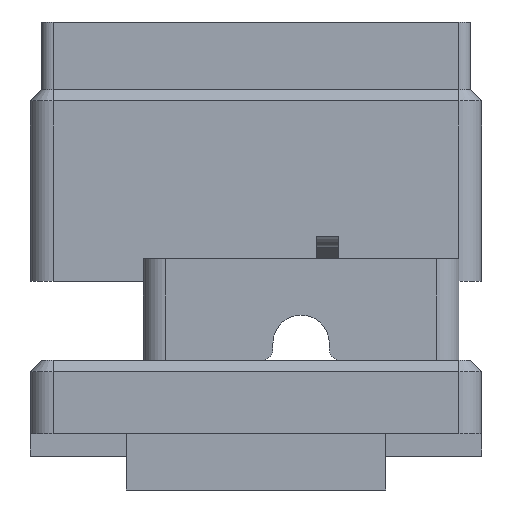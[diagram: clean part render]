
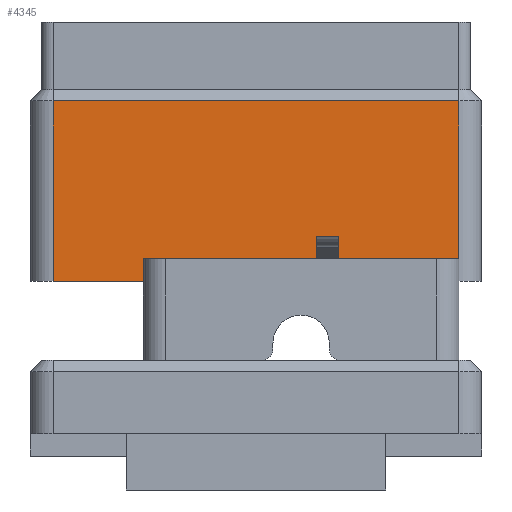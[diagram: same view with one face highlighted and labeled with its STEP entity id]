
A CAD part, front view. The second image highlights one B-rep face of the part: STEP entity #4345.
In plain terms, the highlighted planar face has unit normal (0, -1, 0).
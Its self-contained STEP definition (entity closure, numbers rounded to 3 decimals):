
#51=FACE_BOUND('',#694,.T.);
#420=FACE_OUTER_BOUND('',#693,.T.);
#693=EDGE_LOOP('',(#3513,#3514,#3515,#3516));
#694=EDGE_LOOP('',(#3517,#3518,#3519,#3520));
#1088=LINE('',#6770,#1560);
#1094=LINE('',#6791,#1566);
#1121=LINE('',#6887,#1593);
#1124=LINE('',#6893,#1596);
#1131=LINE('',#6931,#1603);
#1132=LINE('',#6933,#1604);
#1133=LINE('',#6935,#1605);
#1134=LINE('',#6936,#1606);
#1560=VECTOR('',#5435,10.);
#1566=VECTOR('',#5459,10.);
#1593=VECTOR('',#5538,10.);
#1596=VECTOR('',#5545,10.);
#1603=VECTOR('',#5576,10.);
#1604=VECTOR('',#5577,10.);
#1605=VECTOR('',#5578,10.);
#1606=VECTOR('',#5579,10.);
#1971=VERTEX_POINT('',#6760);
#1973=VERTEX_POINT('',#6766);
#1980=VERTEX_POINT('',#6789);
#2023=VERTEX_POINT('',#6886);
#2042=VERTEX_POINT('',#6929);
#2043=VERTEX_POINT('',#6930);
#2044=VERTEX_POINT('',#6932);
#2045=VERTEX_POINT('',#6934);
#2487=EDGE_CURVE('',#1971,#1973,#1088,.T.);
#2498=EDGE_CURVE('',#1980,#1971,#1094,.T.);
#2545=EDGE_CURVE('',#1973,#2023,#1121,.T.);
#2549=EDGE_CURVE('',#2023,#1980,#1124,.T.);
#2567=EDGE_CURVE('',#2042,#2043,#1131,.T.);
#2568=EDGE_CURVE('',#2042,#2044,#1132,.T.);
#2569=EDGE_CURVE('',#2044,#2045,#1133,.T.);
#2570=EDGE_CURVE('',#2045,#2043,#1134,.T.);
#3513=ORIENTED_EDGE('',*,*,#2487,.F.);
#3514=ORIENTED_EDGE('',*,*,#2498,.F.);
#3515=ORIENTED_EDGE('',*,*,#2549,.F.);
#3516=ORIENTED_EDGE('',*,*,#2545,.F.);
#3517=ORIENTED_EDGE('',*,*,#2567,.F.);
#3518=ORIENTED_EDGE('',*,*,#2568,.T.);
#3519=ORIENTED_EDGE('',*,*,#2569,.T.);
#3520=ORIENTED_EDGE('',*,*,#2570,.T.);
#4149=PLANE('',#4681);
#4345=ADVANCED_FACE('',(#420,#51),#4149,.F.);
#4681=AXIS2_PLACEMENT_3D('',#6928,#5574,#5575);
#5435=DIRECTION('',(1.,0.,0.));
#5459=DIRECTION('',(0.,0.,1.));
#5538=DIRECTION('',(0.,0.,-1.));
#5545=DIRECTION('',(-1.,0.,0.));
#5574=DIRECTION('center_axis',(0.,1.,0.));
#5575=DIRECTION('ref_axis',(0.,0.,1.));
#5576=DIRECTION('',(1.,0.,0.));
#5577=DIRECTION('',(0.,0.,1.));
#5578=DIRECTION('',(1.,0.,0.));
#5579=DIRECTION('',(0.,0.,-1.));
#6760=CARTESIAN_POINT('',(2.,80.,23.));
#6766=CARTESIAN_POINT('',(38.,80.,23.));
#6770=CARTESIAN_POINT('',(20.,80.,23.));
#6789=CARTESIAN_POINT('',(2.,80.,7.));
#6791=CARTESIAN_POINT('',(2.,80.,10.));
#6886=CARTESIAN_POINT('',(38.,80.,7.));
#6887=CARTESIAN_POINT('',(38.,80.,10.));
#6893=CARTESIAN_POINT('',(20.,80.,7.));
#6928=CARTESIAN_POINT('Origin',(20.,80.,10.));
#6929=CARTESIAN_POINT('',(25.339,80.,8.));
#6930=CARTESIAN_POINT('',(27.339,80.,8.));
#6931=CARTESIAN_POINT('',(26.339,80.,8.));
#6932=CARTESIAN_POINT('',(25.339,80.,11.));
#6933=CARTESIAN_POINT('',(25.339,80.,10.25));
#6934=CARTESIAN_POINT('',(27.339,80.,11.));
#6935=CARTESIAN_POINT('',(23.17,80.,11.));
#6936=CARTESIAN_POINT('',(27.339,80.,10.25));
